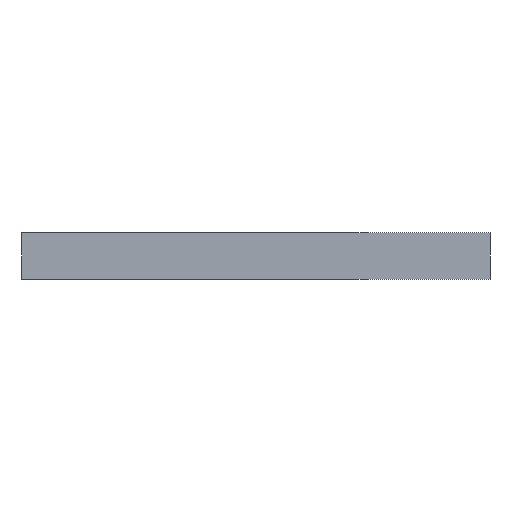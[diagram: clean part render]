
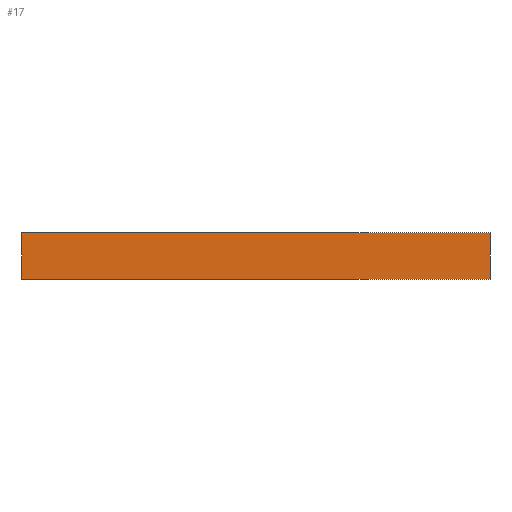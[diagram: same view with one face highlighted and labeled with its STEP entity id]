
A CAD part, left-side view. The second image highlights one B-rep face of the part: STEP entity #17.
In plain terms, the highlighted planar face has unit normal (-1, 0, 0).
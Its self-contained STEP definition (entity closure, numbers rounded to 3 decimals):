
#17 = ADVANCED_FACE('',(#18),#32,.F.);
#18 = FACE_BOUND('',#19,.F.);
#19 = EDGE_LOOP('',(#20,#55,#83,#111));
#20 = ORIENTED_EDGE('',*,*,#21,.F.);
#21 = EDGE_CURVE('',#22,#24,#26,.T.);
#22 = VERTEX_POINT('',#23);
#23 = CARTESIAN_POINT('',(0.,0.,0.));
#24 = VERTEX_POINT('',#25);
#25 = CARTESIAN_POINT('',(0.,0.,3.2));
#26 = SURFACE_CURVE('',#27,(#31,#43),.PCURVE_S1.);
#27 = LINE('',#28,#29);
#28 = CARTESIAN_POINT('',(0.,0.,0.));
#29 = VECTOR('',#30,1.);
#30 = DIRECTION('',(0.,0.,1.));
#31 = PCURVE('',#32,#37);
#32 = PLANE('',#33);
#33 = AXIS2_PLACEMENT_3D('',#34,#35,#36);
#34 = CARTESIAN_POINT('',(0.,0.,0.));
#35 = DIRECTION('',(1.,0.,0.));
#36 = DIRECTION('',(0.,0.,1.));
#37 = DEFINITIONAL_REPRESENTATION('',(#38),#42);
#38 = LINE('',#39,#40);
#39 = CARTESIAN_POINT('',(0.,0.));
#40 = VECTOR('',#41,1.);
#41 = DIRECTION('',(1.,0.));
#42 = ( GEOMETRIC_REPRESENTATION_CONTEXT(2) 
PARAMETRIC_REPRESENTATION_CONTEXT() REPRESENTATION_CONTEXT('2D SPACE',''
  ) );
#43 = PCURVE('',#44,#49);
#44 = PLANE('',#45);
#45 = AXIS2_PLACEMENT_3D('',#46,#47,#48);
#46 = CARTESIAN_POINT('',(0.,0.,0.));
#47 = DIRECTION('',(0.,1.,0.));
#48 = DIRECTION('',(0.,0.,1.));
#49 = DEFINITIONAL_REPRESENTATION('',(#50),#54);
#50 = LINE('',#51,#52);
#51 = CARTESIAN_POINT('',(0.,0.));
#52 = VECTOR('',#53,1.);
#53 = DIRECTION('',(1.,0.));
#54 = ( GEOMETRIC_REPRESENTATION_CONTEXT(2) 
PARAMETRIC_REPRESENTATION_CONTEXT() REPRESENTATION_CONTEXT('2D SPACE',''
  ) );
#55 = ORIENTED_EDGE('',*,*,#56,.T.);
#56 = EDGE_CURVE('',#22,#57,#59,.T.);
#57 = VERTEX_POINT('',#58);
#58 = CARTESIAN_POINT('',(0.,32.,0.));
#59 = SURFACE_CURVE('',#60,(#64,#71),.PCURVE_S1.);
#60 = LINE('',#61,#62);
#61 = CARTESIAN_POINT('',(0.,0.,0.));
#62 = VECTOR('',#63,1.);
#63 = DIRECTION('',(0.,1.,0.));
#64 = PCURVE('',#32,#65);
#65 = DEFINITIONAL_REPRESENTATION('',(#66),#70);
#66 = LINE('',#67,#68);
#67 = CARTESIAN_POINT('',(0.,0.));
#68 = VECTOR('',#69,1.);
#69 = DIRECTION('',(0.,-1.));
#70 = ( GEOMETRIC_REPRESENTATION_CONTEXT(2) 
PARAMETRIC_REPRESENTATION_CONTEXT() REPRESENTATION_CONTEXT('2D SPACE',''
  ) );
#71 = PCURVE('',#72,#77);
#72 = PLANE('',#73);
#73 = AXIS2_PLACEMENT_3D('',#74,#75,#76);
#74 = CARTESIAN_POINT('',(0.,0.,0.));
#75 = DIRECTION('',(0.,0.,1.));
#76 = DIRECTION('',(1.,0.,0.));
#77 = DEFINITIONAL_REPRESENTATION('',(#78),#82);
#78 = LINE('',#79,#80);
#79 = CARTESIAN_POINT('',(0.,0.));
#80 = VECTOR('',#81,1.);
#81 = DIRECTION('',(0.,1.));
#82 = ( GEOMETRIC_REPRESENTATION_CONTEXT(2) 
PARAMETRIC_REPRESENTATION_CONTEXT() REPRESENTATION_CONTEXT('2D SPACE',''
  ) );
#83 = ORIENTED_EDGE('',*,*,#84,.T.);
#84 = EDGE_CURVE('',#57,#85,#87,.T.);
#85 = VERTEX_POINT('',#86);
#86 = CARTESIAN_POINT('',(0.,32.,3.2));
#87 = SURFACE_CURVE('',#88,(#92,#99),.PCURVE_S1.);
#88 = LINE('',#89,#90);
#89 = CARTESIAN_POINT('',(0.,32.,0.));
#90 = VECTOR('',#91,1.);
#91 = DIRECTION('',(0.,0.,1.));
#92 = PCURVE('',#32,#93);
#93 = DEFINITIONAL_REPRESENTATION('',(#94),#98);
#94 = LINE('',#95,#96);
#95 = CARTESIAN_POINT('',(0.,-32.));
#96 = VECTOR('',#97,1.);
#97 = DIRECTION('',(1.,0.));
#98 = ( GEOMETRIC_REPRESENTATION_CONTEXT(2) 
PARAMETRIC_REPRESENTATION_CONTEXT() REPRESENTATION_CONTEXT('2D SPACE',''
  ) );
#99 = PCURVE('',#100,#105);
#100 = PLANE('',#101);
#101 = AXIS2_PLACEMENT_3D('',#102,#103,#104);
#102 = CARTESIAN_POINT('',(0.,32.,0.));
#103 = DIRECTION('',(0.,1.,0.));
#104 = DIRECTION('',(0.,0.,1.));
#105 = DEFINITIONAL_REPRESENTATION('',(#106),#110);
#106 = LINE('',#107,#108);
#107 = CARTESIAN_POINT('',(0.,0.));
#108 = VECTOR('',#109,1.);
#109 = DIRECTION('',(1.,0.));
#110 = ( GEOMETRIC_REPRESENTATION_CONTEXT(2) 
PARAMETRIC_REPRESENTATION_CONTEXT() REPRESENTATION_CONTEXT('2D SPACE',''
  ) );
#111 = ORIENTED_EDGE('',*,*,#112,.F.);
#112 = EDGE_CURVE('',#24,#85,#113,.T.);
#113 = SURFACE_CURVE('',#114,(#118,#125),.PCURVE_S1.);
#114 = LINE('',#115,#116);
#115 = CARTESIAN_POINT('',(0.,0.,3.2));
#116 = VECTOR('',#117,1.);
#117 = DIRECTION('',(0.,1.,0.));
#118 = PCURVE('',#32,#119);
#119 = DEFINITIONAL_REPRESENTATION('',(#120),#124);
#120 = LINE('',#121,#122);
#121 = CARTESIAN_POINT('',(3.2,0.));
#122 = VECTOR('',#123,1.);
#123 = DIRECTION('',(0.,-1.));
#124 = ( GEOMETRIC_REPRESENTATION_CONTEXT(2) 
PARAMETRIC_REPRESENTATION_CONTEXT() REPRESENTATION_CONTEXT('2D SPACE',''
  ) );
#125 = PCURVE('',#126,#131);
#126 = PLANE('',#127);
#127 = AXIS2_PLACEMENT_3D('',#128,#129,#130);
#128 = CARTESIAN_POINT('',(0.,0.,3.2));
#129 = DIRECTION('',(0.,0.,1.));
#130 = DIRECTION('',(1.,0.,0.));
#131 = DEFINITIONAL_REPRESENTATION('',(#132),#136);
#132 = LINE('',#133,#134);
#133 = CARTESIAN_POINT('',(0.,0.));
#134 = VECTOR('',#135,1.);
#135 = DIRECTION('',(0.,1.));
#136 = ( GEOMETRIC_REPRESENTATION_CONTEXT(2) 
PARAMETRIC_REPRESENTATION_CONTEXT() REPRESENTATION_CONTEXT('2D SPACE',''
  ) );
